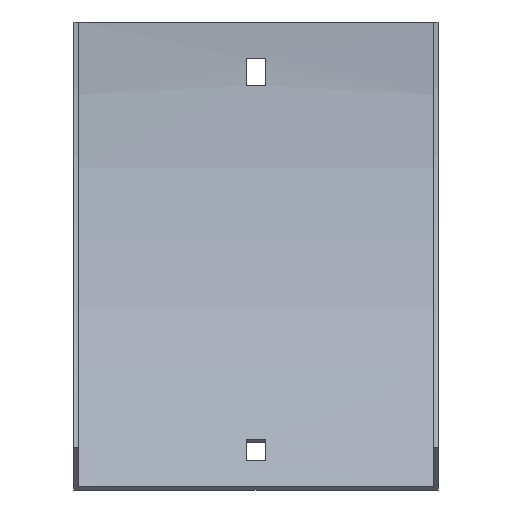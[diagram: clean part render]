
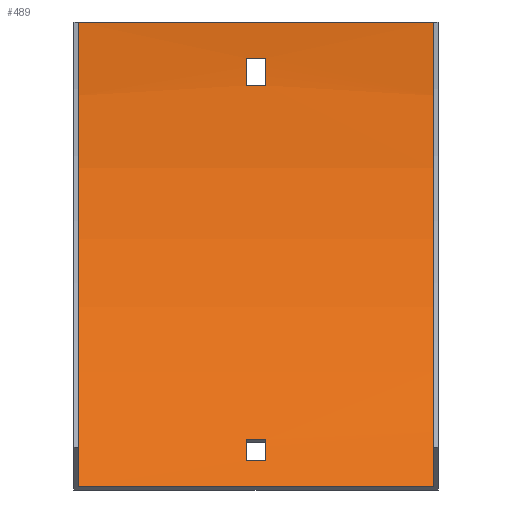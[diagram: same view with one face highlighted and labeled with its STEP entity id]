
A CAD part, front view. The second image highlights one B-rep face of the part: STEP entity #489.
In plain terms, the highlighted cylindrical face has radius 217.5 mm (diameter 435 mm), a partial arc.
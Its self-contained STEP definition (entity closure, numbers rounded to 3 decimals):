
#1 = ORIENTED_EDGE ( 'NONE', *, *, #562, .F. ) ;
#2 = DIRECTION ( 'NONE',  ( 0., 0., -1. ) ) ;
#3 = ORIENTED_EDGE ( 'NONE', *, *, #163, .T. ) ;
#15 = FACE_OUTER_BOUND ( 'NONE', #171, .T. ) ;
#21 = EDGE_CURVE ( 'NONE', #463, #504, #138, .T. ) ;
#22 = DIRECTION ( 'NONE',  ( 0., 0., 1. ) ) ;
#23 = CARTESIAN_POINT ( 'NONE',  ( 58.75, -65.204, -153.796 ) ) ;
#34 = DIRECTION ( 'NONE',  ( 1., 0., 0. ) ) ;
#39 = ORIENTED_EDGE ( 'NONE', *, *, #177, .F. ) ;
#40 = CIRCLE ( 'NONE', #518, 217.5 ) ;
#45 = VERTEX_POINT ( 'NONE', #392 ) ;
#53 = VERTEX_POINT ( 'NONE', #347 ) ;
#66 = CIRCLE ( 'NONE', #237, 217.5 ) ;
#90 = DIRECTION ( 'NONE',  ( 1., 0., 0. ) ) ;
#91 = VERTEX_POINT ( 'NONE', #523 ) ;
#95 = ORIENTED_EDGE ( 'NONE', *, *, #270, .T. ) ;
#96 = VECTOR ( 'NONE', #496, 1000. ) ;
#100 = CYLINDRICAL_SURFACE ( 'NONE', #548, 217.5 ) ;
#105 = DIRECTION ( 'NONE',  ( 1., 0., 0. ) ) ;
#116 = ORIENTED_EDGE ( 'NONE', *, *, #250, .F. ) ;
#135 = ORIENTED_EDGE ( 'NONE', *, *, #512, .F. ) ;
#138 = CIRCLE ( 'NONE', #487, 217.5 ) ;
#140 = CARTESIAN_POINT ( 'NONE',  ( 60.25, -51.074, -138.228 ) ) ;
#152 = DIRECTION ( 'NONE',  ( -1., 0., 0. ) ) ;
#156 = AXIS2_PLACEMENT_3D ( 'NONE', #196, #105, #534 ) ;
#163 = EDGE_CURVE ( 'NONE', #544, #45, #40, .T. ) ;
#170 = CARTESIAN_POINT ( 'NONE',  ( 58.75, -219., 0. ) ) ;
#171 = EDGE_LOOP ( 'NONE', ( #1, #116, #359, #318 ) ) ;
#172 = LINE ( 'NONE', #402, #305 ) ;
#175 = ORIENTED_EDGE ( 'NONE', *, *, #21, .F. ) ;
#177 = EDGE_CURVE ( 'NONE', #504, #272, #454, .T. ) ;
#196 = CARTESIAN_POINT ( 'NONE',  ( 3.25, -219., 0. ) ) ;
#203 = DIRECTION ( 'NONE',  ( -1., 0., 0. ) ) ;
#207 = FACE_BOUND ( 'NONE', #424, .T. ) ;
#218 = ORIENTED_EDGE ( 'NONE', *, *, #322, .T. ) ;
#221 = CARTESIAN_POINT ( 'NONE',  ( 3.25, -219., 0. ) ) ;
#235 = CARTESIAN_POINT ( 'NONE',  ( 3.25, -2.516, -21. ) ) ;
#237 = AXIS2_PLACEMENT_3D ( 'NONE', #513, #242, #2 ) ;
#239 = EDGE_CURVE ( 'NONE', #565, #91, #266, .T. ) ;
#242 = DIRECTION ( 'NONE',  ( 1., 0., 0. ) ) ;
#250 = EDGE_CURVE ( 'NONE', #565, #53, #543, .T. ) ;
#253 = DIRECTION ( 'NONE',  ( 0., 0., 1. ) ) ;
#254 = CARTESIAN_POINT ( 'NONE',  ( -3.25, -219., 0. ) ) ;
#258 = CARTESIAN_POINT ( 'NONE',  ( -3.25, -1.831, -12. ) ) ;
#266 = CIRCLE ( 'NONE', #363, 217.5 ) ;
#270 = EDGE_CURVE ( 'NONE', #448, #376, #66, .T. ) ;
#272 = VERTEX_POINT ( 'NONE', #235 ) ;
#278 = VECTOR ( 'NONE', #152, 1000. ) ;
#285 = LINE ( 'NONE', #140, #488 ) ;
#290 = CARTESIAN_POINT ( 'NONE',  ( 60.25, -219., 0. ) ) ;
#304 = VECTOR ( 'NONE', #326, 1000. ) ;
#305 = VECTOR ( 'NONE', #396, 1000. ) ;
#307 = CARTESIAN_POINT ( 'NONE',  ( 60.25, -2.516, -21. ) ) ;
#310 = DIRECTION ( 'NONE',  ( 0., 0., 1. ) ) ;
#313 = CARTESIAN_POINT ( 'NONE',  ( 58.75, -65.204, -153.796 ) ) ;
#318 = ORIENTED_EDGE ( 'NONE', *, *, #542, .T. ) ;
#322 = EDGE_CURVE ( 'NONE', #45, #448, #373, .T. ) ;
#326 = DIRECTION ( 'NONE',  ( -1., 0., 0. ) ) ;
#336 = FACE_BOUND ( 'NONE', #563, .T. ) ;
#344 = AXIS2_PLACEMENT_3D ( 'NONE', #545, #492, #503 ) ;
#347 = CARTESIAN_POINT ( 'NONE',  ( -58.75, -65.204, -153.796 ) ) ;
#357 = EDGE_CURVE ( 'NONE', #376, #544, #285, .T. ) ;
#358 = DIRECTION ( 'NONE',  ( -1., 0., 0. ) ) ;
#359 = ORIENTED_EDGE ( 'NONE', *, *, #239, .T. ) ;
#363 = AXIS2_PLACEMENT_3D ( 'NONE', #170, #34, #550 ) ;
#373 = LINE ( 'NONE', #423, #304 ) ;
#376 = VERTEX_POINT ( 'NONE', #474 ) ;
#386 = LINE ( 'NONE', #573, #278 ) ;
#392 = CARTESIAN_POINT ( 'NONE',  ( 3.25, -56.953, -145.076 ) ) ;
#396 = DIRECTION ( 'NONE',  ( -1., 0., 0. ) ) ;
#401 = CIRCLE ( 'NONE', #156, 217.5 ) ;
#402 = CARTESIAN_POINT ( 'NONE',  ( 58.75, -1.5, 0. ) ) ;
#406 = DIRECTION ( 'NONE',  ( 1., 0., 0. ) ) ;
#423 = CARTESIAN_POINT ( 'NONE',  ( 60.25, -56.953, -145.076 ) ) ;
#424 = EDGE_LOOP ( 'NONE', ( #218, #95, #560, #3 ) ) ;
#436 = EDGE_CURVE ( 'NONE', #272, #455, #401, .T. ) ;
#439 = CARTESIAN_POINT ( 'NONE',  ( -3.25, -2.516, -21. ) ) ;
#445 = CARTESIAN_POINT ( 'NONE',  ( -58.75, -1.5, 0. ) ) ;
#448 = VERTEX_POINT ( 'NONE', #525 ) ;
#454 = LINE ( 'NONE', #307, #597 ) ;
#455 = VERTEX_POINT ( 'NONE', #485 ) ;
#463 = VERTEX_POINT ( 'NONE', #258 ) ;
#474 = CARTESIAN_POINT ( 'NONE',  ( -3.25, -51.074, -138.228 ) ) ;
#485 = CARTESIAN_POINT ( 'NONE',  ( 3.25, -1.831, -12. ) ) ;
#487 = AXIS2_PLACEMENT_3D ( 'NONE', #254, #584, #22 ) ;
#488 = VECTOR ( 'NONE', #90, 1000. ) ;
#489 = ADVANCED_FACE ( 'NONE', ( #336, #15, #207 ), #100, .F. ) ;
#492 = DIRECTION ( 'NONE',  ( 1., 0., 0. ) ) ;
#496 = DIRECTION ( 'NONE',  ( -1., 0., 0. ) ) ;
#498 = ORIENTED_EDGE ( 'NONE', *, *, #436, .F. ) ;
#503 = DIRECTION ( 'NONE',  ( 0., 0., 1. ) ) ;
#504 = VERTEX_POINT ( 'NONE', #439 ) ;
#508 = CIRCLE ( 'NONE', #344, 217.5 ) ;
#512 = EDGE_CURVE ( 'NONE', #455, #463, #386, .T. ) ;
#513 = CARTESIAN_POINT ( 'NONE',  ( -3.25, -219., 0. ) ) ;
#516 = VERTEX_POINT ( 'NONE', #445 ) ;
#518 = AXIS2_PLACEMENT_3D ( 'NONE', #221, #358, #310 ) ;
#523 = CARTESIAN_POINT ( 'NONE',  ( 58.75, -1.5, 0. ) ) ;
#525 = CARTESIAN_POINT ( 'NONE',  ( -3.25, -56.953, -145.076 ) ) ;
#534 = DIRECTION ( 'NONE',  ( 0., 0., -1. ) ) ;
#542 = EDGE_CURVE ( 'NONE', #91, #516, #172, .T. ) ;
#543 = LINE ( 'NONE', #313, #96 ) ;
#544 = VERTEX_POINT ( 'NONE', #549 ) ;
#545 = CARTESIAN_POINT ( 'NONE',  ( -58.75, -219., 0. ) ) ;
#548 = AXIS2_PLACEMENT_3D ( 'NONE', #290, #203, #253 ) ;
#549 = CARTESIAN_POINT ( 'NONE',  ( 3.25, -51.074, -138.228 ) ) ;
#550 = DIRECTION ( 'NONE',  ( 0., 0., 1. ) ) ;
#560 = ORIENTED_EDGE ( 'NONE', *, *, #357, .T. ) ;
#562 = EDGE_CURVE ( 'NONE', #53, #516, #508, .T. ) ;
#563 = EDGE_LOOP ( 'NONE', ( #175, #135, #498, #39 ) ) ;
#565 = VERTEX_POINT ( 'NONE', #23 ) ;
#573 = CARTESIAN_POINT ( 'NONE',  ( 60.25, -1.831, -12. ) ) ;
#584 = DIRECTION ( 'NONE',  ( -1., 0., 0. ) ) ;
#597 = VECTOR ( 'NONE', #406, 1000. ) ;
